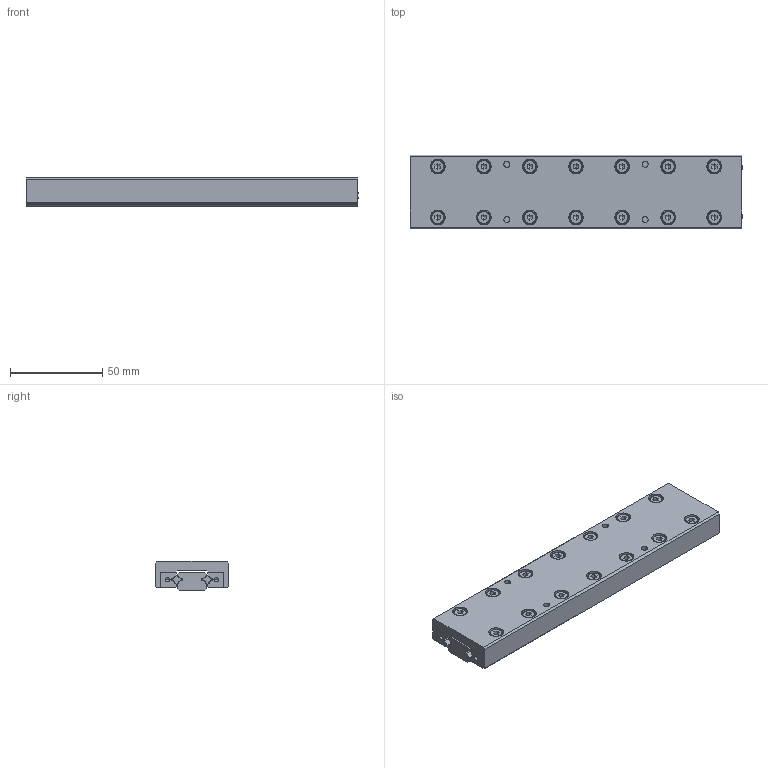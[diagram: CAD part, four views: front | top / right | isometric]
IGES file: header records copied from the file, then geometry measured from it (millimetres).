
Global section: file name: No Iges File Name specified; native system: AutoDesk Inventor R10; preprocessor: AutoDesk Inventor Iges Exporter R10; author: No Author specified; organization: No Organization specified; date: 20101224.112851; units: millimetre
Bounding box: 180 x 40 x 16 mm (x, y, z)
Surface area: 45235.6 mm2 (no closed solid volume)
Topology: 0 solids, 0 shells, 603 faces, 3724 edges, 3688 vertices
Faces by surface type: bspline 603
